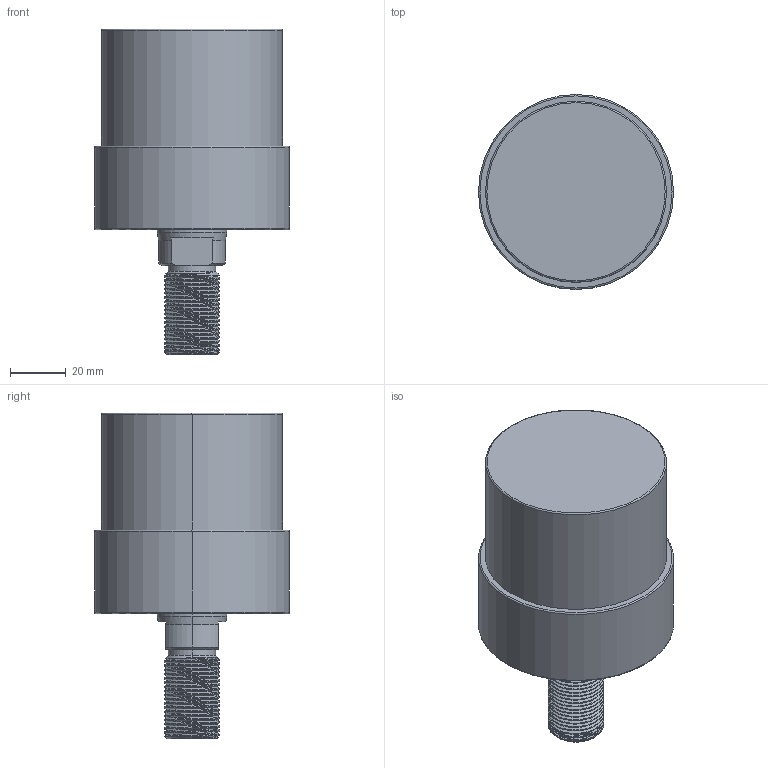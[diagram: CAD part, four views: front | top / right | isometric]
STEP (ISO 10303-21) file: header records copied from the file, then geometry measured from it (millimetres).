
FILE_DESCRIPTION (( 'STEP AP203' ), '1' );
FILE_NAME ('CLLU-065GT-025.STEP', '2020-01-16T01:00:36', ( '' ), ( '' ), 'SwSTEP 2.0', 'SolidWorks 2015', '' );
FILE_SCHEMA (( 'CONFIG_CONTROL_DESIGN' ));
Length unit declared in the file: millimetre
Products named in the file (1): CLLU-065GT-025
Bounding box: 70 x 70 x 117 mm (x, y, z)
Volume: 267800.9 mm3; surface area: 28052.1 mm2
Topology: 1 solids, 1 shells, 107 faces, 270 edges, 166 vertices
Faces by surface type: cylinder 61, cone 26, plane 12, torus 6, bspline 2
Entity records: 5338 total; most frequent: CARTESIAN_POINT 2937, ORIENTED_EDGE 524, DIRECTION 461, EDGE_CURVE 262, AXIS2_PLACEMENT_3D 184, VERTEX_POINT 166, EDGE_LOOP 116, ADVANCED_FACE 107
